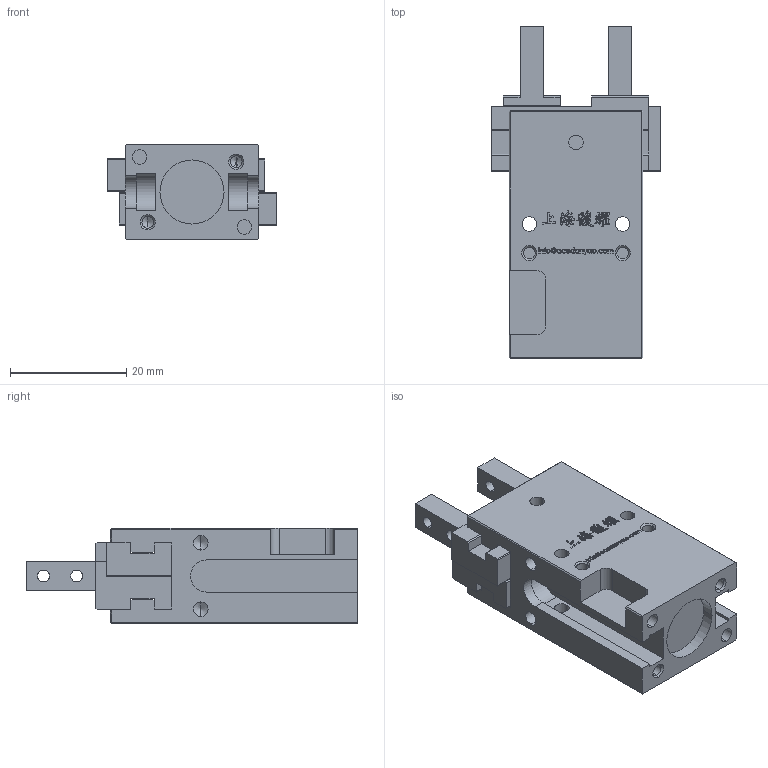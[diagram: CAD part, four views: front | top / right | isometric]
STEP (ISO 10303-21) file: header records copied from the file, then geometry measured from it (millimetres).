
FILE_DESCRIPTION (( 'STEP AP203' ), '1' );
FILE_NAME ('PEP-10-C1-VS-原始檔-組合-W106.04.20.STEP', '2017-04-20T01:43:39', ( 'DanyaoCAD' ), ( '' ), 'SwSTEP 2.0', 'SolidWorks 2016', '' );
FILE_SCHEMA (( 'CONFIG_CONTROL_DESIGN' ));
Length unit declared in the file: millimetre
Products named in the file (3): PEP-10-C1-VS-原始檔-組合-W106.04.20; Corpo; Griffa
Assembly tree (3 placements, depth 2):
  PEP-10-C1-VS-原始檔-組合-W106.04.20
    Griffa  x2
    Corpo
Bounding box: 29 x 57 x 16.4 mm (x, y, z)
Volume: 14377.2 mm3; surface area: 8813.3 mm2
Topology: 3 solids, 3 shells, 973 faces, 2722 edges, 1796 vertices
Faces by surface type: bspline 640, plane 263, cylinder 50, cone 20
Entity records: 46658 total; most frequent: CARTESIAN_POINT 26437, ORIENTED_EDGE 5254, EDGE_CURVE 2627, DIRECTION 2065, VERTEX_POINT 1741, B_SPLINE_CURVE_WITH_KNOTS 1280, VECTOR 1247, LINE 1247
